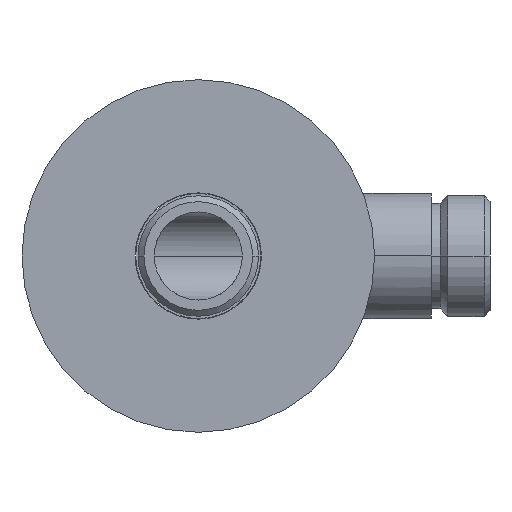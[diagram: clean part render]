
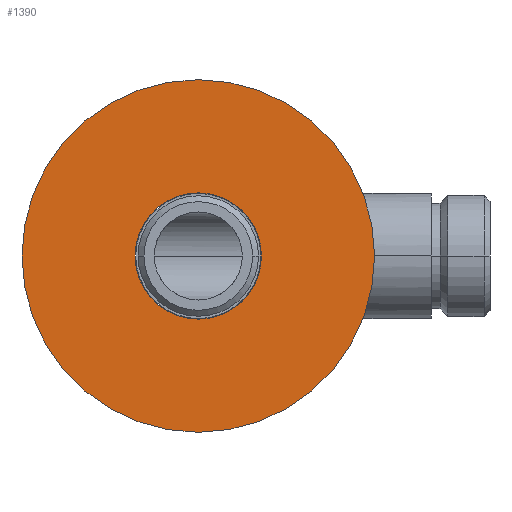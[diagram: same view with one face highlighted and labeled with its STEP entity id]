
A CAD part, left-side view. The second image highlights one B-rep face of the part: STEP entity #1390.
In plain terms, the highlighted planar face has unit normal (-1, 0, 0).
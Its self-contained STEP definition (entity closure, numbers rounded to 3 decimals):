
#1231=CARTESIAN_POINT('',(0.,0.,0.));
#1232=DIRECTION('',(1.,0.,0.));
#1233=DIRECTION('',(0.,1.,0.));
#1234=AXIS2_PLACEMENT_3D('',#1231,#1232,#1233);
#1244=CARTESIAN_POINT('',(0.,0.,0.));
#1245=DIRECTION('',(-1.,0.,0.));
#1246=DIRECTION('',(0.,1.,0.));
#1247=AXIS2_PLACEMENT_3D('',#1244,#1245,#1246);
#1277=CARTESIAN_POINT('',(0.,0.,0.));
#1278=DIRECTION('',(-1.,0.,0.));
#1279=DIRECTION('',(0.,1.,0.));
#1280=AXIS2_PLACEMENT_3D('',#1277,#1278,#1279);
#1282=CARTESIAN_POINT('',(0.,0.,0.));
#1283=DIRECTION('',(1.,0.,0.));
#1284=DIRECTION('',(0.,1.,0.));
#1285=AXIS2_PLACEMENT_3D('',#1282,#1283,#1284);
#1287=CARTESIAN_POINT('',(0.,10.75,0.));
#1289=VERTEX_POINT('',#1287);
#1292=CARTESIAN_POINT('',(0.,30.,0.));
#1294=VERTEX_POINT('',#1292);
#1295=CARTESIAN_POINT('',(0.,-10.75,0.));
#1297=VERTEX_POINT('',#1295);
#1300=CARTESIAN_POINT('',(0.,-30.,0.));
#1302=VERTEX_POINT('',#1300);
#1377=CARTESIAN_POINT('',(0.,0.,0.));
#1378=DIRECTION('',(1.,0.,0.));
#1379=DIRECTION('',(0.,-1.,0.));
#1380=AXIS2_PLACEMENT_3D('',#1377,#1378,#1379);
#1381=PLANE('',#1380);
#1382=ORIENTED_EDGE('',*,*,#1370,.F.);
#1383=ORIENTED_EDGE('',*,*,#1359,.T.);
#1384=EDGE_LOOP('',(#1382,#1383));
#1385=FACE_OUTER_BOUND('',#1384,.F.);
#1386=ORIENTED_EDGE('',*,*,#1310,.F.);
#1387=ORIENTED_EDGE('',*,*,#1328,.T.);
#1388=EDGE_LOOP('',(#1386,#1387));
#1389=FACE_BOUND('',#1388,.F.);
#1390=ADVANCED_FACE('',(#1385,#1389),#1381,.F.);
#1235=CIRCLE('',#1234,10.75);
#1248=CIRCLE('',#1247,10.75);
#1281=CIRCLE('',#1280,30.);
#1286=CIRCLE('',#1285,30.);
#1310=EDGE_CURVE('',#1289,#1297,#1235,.T.);
#1328=EDGE_CURVE('',#1289,#1297,#1248,.T.);
#1359=EDGE_CURVE('',#1294,#1302,#1286,.T.);
#1370=EDGE_CURVE('',#1294,#1302,#1281,.T.);
